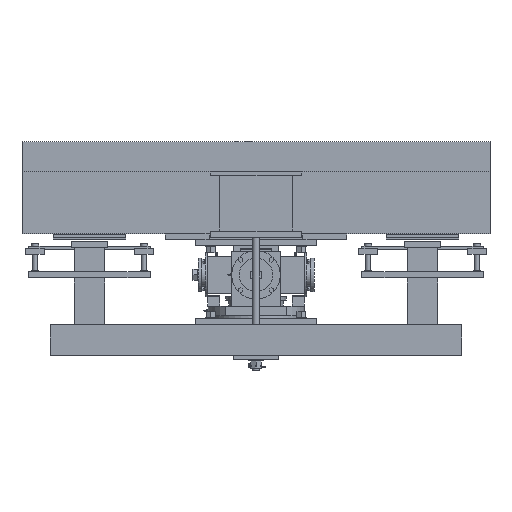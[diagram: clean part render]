
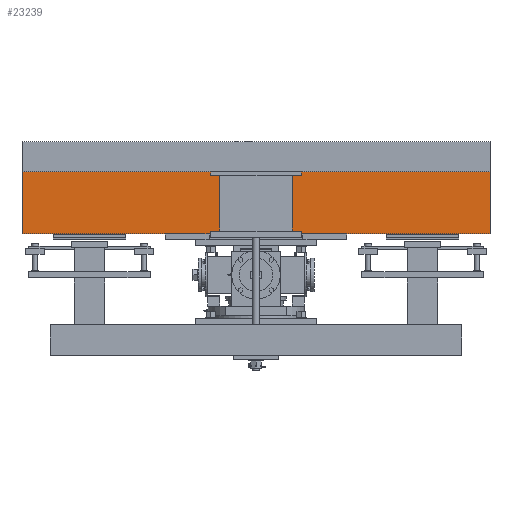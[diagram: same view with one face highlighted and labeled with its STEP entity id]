
A CAD part, left-side view. The second image highlights one B-rep face of the part: STEP entity #23239.
In plain terms, the highlighted planar face has unit normal (-1, 0, 0).
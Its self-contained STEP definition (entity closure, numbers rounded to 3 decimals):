
#23239 = ADVANCED_FACE('',(#23240),#23254,.F.);
#23240 = FACE_BOUND('',#23241,.F.);
#23241 = EDGE_LOOP('',(#23242,#23277,#23305,#23333));
#23242 = ORIENTED_EDGE('',*,*,#23243,.F.);
#23243 = EDGE_CURVE('',#23244,#23246,#23248,.T.);
#23244 = VERTEX_POINT('',#23245);
#23245 = CARTESIAN_POINT('',(3094.,-772.8,1470.2));
#23246 = VERTEX_POINT('',#23247);
#23247 = CARTESIAN_POINT('',(3094.,-772.8,1775.));
#23248 = SURFACE_CURVE('',#23249,(#23253,#23265),.PCURVE_S1.);
#23249 = LINE('',#23250,#23251);
#23250 = CARTESIAN_POINT('',(3094.,-772.8,1470.2));
#23251 = VECTOR('',#23252,1.);
#23252 = DIRECTION('',(0.,0.,1.));
#23253 = PCURVE('',#23254,#23259);
#23254 = PLANE('',#23255);
#23255 = AXIS2_PLACEMENT_3D('',#23256,#23257,#23258);
#23256 = CARTESIAN_POINT('',(3094.,-772.8,1470.2));
#23257 = DIRECTION('',(1.,0.,0.));
#23258 = DIRECTION('',(0.,0.,1.));
#23259 = DEFINITIONAL_REPRESENTATION('',(#23260),#23264);
#23260 = LINE('',#23261,#23262);
#23261 = CARTESIAN_POINT('',(0.,0.));
#23262 = VECTOR('',#23263,1.);
#23263 = DIRECTION('',(1.,0.));
#23264 = ( GEOMETRIC_REPRESENTATION_CONTEXT(2) 
PARAMETRIC_REPRESENTATION_CONTEXT() REPRESENTATION_CONTEXT('2D SPACE',''
  ) );
#23265 = PCURVE('',#23266,#23271);
#23266 = PLANE('',#23267);
#23267 = AXIS2_PLACEMENT_3D('',#23268,#23269,#23270);
#23268 = CARTESIAN_POINT('',(3094.,-772.8,1470.2));
#23269 = DIRECTION('',(0.,1.,0.));
#23270 = DIRECTION('',(0.,-0.,1.));
#23271 = DEFINITIONAL_REPRESENTATION('',(#23272),#23276);
#23272 = LINE('',#23273,#23274);
#23273 = CARTESIAN_POINT('',(0.,0.));
#23274 = VECTOR('',#23275,1.);
#23275 = DIRECTION('',(1.,0.));
#23276 = ( GEOMETRIC_REPRESENTATION_CONTEXT(2) 
PARAMETRIC_REPRESENTATION_CONTEXT() REPRESENTATION_CONTEXT('2D SPACE',''
  ) );
#23277 = ORIENTED_EDGE('',*,*,#23278,.T.);
#23278 = EDGE_CURVE('',#23244,#23279,#23281,.T.);
#23279 = VERTEX_POINT('',#23280);
#23280 = CARTESIAN_POINT('',(3094.,772.8,1470.2));
#23281 = SURFACE_CURVE('',#23282,(#23286,#23293),.PCURVE_S1.);
#23282 = LINE('',#23283,#23284);
#23283 = CARTESIAN_POINT('',(3094.,-772.8,1470.2));
#23284 = VECTOR('',#23285,1.);
#23285 = DIRECTION('',(0.,1.,0.));
#23286 = PCURVE('',#23254,#23287);
#23287 = DEFINITIONAL_REPRESENTATION('',(#23288),#23292);
#23288 = LINE('',#23289,#23290);
#23289 = CARTESIAN_POINT('',(0.,0.));
#23290 = VECTOR('',#23291,1.);
#23291 = DIRECTION('',(0.,-1.));
#23292 = ( GEOMETRIC_REPRESENTATION_CONTEXT(2) 
PARAMETRIC_REPRESENTATION_CONTEXT() REPRESENTATION_CONTEXT('2D SPACE',''
  ) );
#23293 = PCURVE('',#23294,#23299);
#23294 = PLANE('',#23295);
#23295 = AXIS2_PLACEMENT_3D('',#23296,#23297,#23298);
#23296 = CARTESIAN_POINT('',(3094.,-772.8,1470.2));
#23297 = DIRECTION('',(0.,0.,1.));
#23298 = DIRECTION('',(1.,0.,-0.));
#23299 = DEFINITIONAL_REPRESENTATION('',(#23300),#23304);
#23300 = LINE('',#23301,#23302);
#23301 = CARTESIAN_POINT('',(0.,0.));
#23302 = VECTOR('',#23303,1.);
#23303 = DIRECTION('',(0.,1.));
#23304 = ( GEOMETRIC_REPRESENTATION_CONTEXT(2) 
PARAMETRIC_REPRESENTATION_CONTEXT() REPRESENTATION_CONTEXT('2D SPACE',''
  ) );
#23305 = ORIENTED_EDGE('',*,*,#23306,.T.);
#23306 = EDGE_CURVE('',#23279,#23307,#23309,.T.);
#23307 = VERTEX_POINT('',#23308);
#23308 = CARTESIAN_POINT('',(3094.,772.8,1775.));
#23309 = SURFACE_CURVE('',#23310,(#23314,#23321),.PCURVE_S1.);
#23310 = LINE('',#23311,#23312);
#23311 = CARTESIAN_POINT('',(3094.,772.8,1470.2));
#23312 = VECTOR('',#23313,1.);
#23313 = DIRECTION('',(0.,0.,1.));
#23314 = PCURVE('',#23254,#23315);
#23315 = DEFINITIONAL_REPRESENTATION('',(#23316),#23320);
#23316 = LINE('',#23317,#23318);
#23317 = CARTESIAN_POINT('',(0.,-1545.6));
#23318 = VECTOR('',#23319,1.);
#23319 = DIRECTION('',(1.,0.));
#23320 = ( GEOMETRIC_REPRESENTATION_CONTEXT(2) 
PARAMETRIC_REPRESENTATION_CONTEXT() REPRESENTATION_CONTEXT('2D SPACE',''
  ) );
#23321 = PCURVE('',#23322,#23327);
#23322 = PLANE('',#23323);
#23323 = AXIS2_PLACEMENT_3D('',#23324,#23325,#23326);
#23324 = CARTESIAN_POINT('',(3094.,772.8,1470.2));
#23325 = DIRECTION('',(0.,1.,0.));
#23326 = DIRECTION('',(0.,-0.,1.));
#23327 = DEFINITIONAL_REPRESENTATION('',(#23328),#23332);
#23328 = LINE('',#23329,#23330);
#23329 = CARTESIAN_POINT('',(0.,0.));
#23330 = VECTOR('',#23331,1.);
#23331 = DIRECTION('',(1.,0.));
#23332 = ( GEOMETRIC_REPRESENTATION_CONTEXT(2) 
PARAMETRIC_REPRESENTATION_CONTEXT() REPRESENTATION_CONTEXT('2D SPACE',''
  ) );
#23333 = ORIENTED_EDGE('',*,*,#23334,.F.);
#23334 = EDGE_CURVE('',#23246,#23307,#23335,.T.);
#23335 = SURFACE_CURVE('',#23336,(#23340,#23347),.PCURVE_S1.);
#23336 = LINE('',#23337,#23338);
#23337 = CARTESIAN_POINT('',(3094.,-772.8,1775.));
#23338 = VECTOR('',#23339,1.);
#23339 = DIRECTION('',(0.,1.,0.));
#23340 = PCURVE('',#23254,#23341);
#23341 = DEFINITIONAL_REPRESENTATION('',(#23342),#23346);
#23342 = LINE('',#23343,#23344);
#23343 = CARTESIAN_POINT('',(304.8,0.));
#23344 = VECTOR('',#23345,1.);
#23345 = DIRECTION('',(0.,-1.));
#23346 = ( GEOMETRIC_REPRESENTATION_CONTEXT(2) 
PARAMETRIC_REPRESENTATION_CONTEXT() REPRESENTATION_CONTEXT('2D SPACE',''
  ) );
#23347 = PCURVE('',#23348,#23353);
#23348 = PLANE('',#23349);
#23349 = AXIS2_PLACEMENT_3D('',#23350,#23351,#23352);
#23350 = CARTESIAN_POINT('',(3094.,-772.8,1775.));
#23351 = DIRECTION('',(0.,0.,1.));
#23352 = DIRECTION('',(1.,0.,-0.));
#23353 = DEFINITIONAL_REPRESENTATION('',(#23354),#23358);
#23354 = LINE('',#23355,#23356);
#23355 = CARTESIAN_POINT('',(0.,0.));
#23356 = VECTOR('',#23357,1.);
#23357 = DIRECTION('',(0.,1.));
#23358 = ( GEOMETRIC_REPRESENTATION_CONTEXT(2) 
PARAMETRIC_REPRESENTATION_CONTEXT() REPRESENTATION_CONTEXT('2D SPACE',''
  ) );
